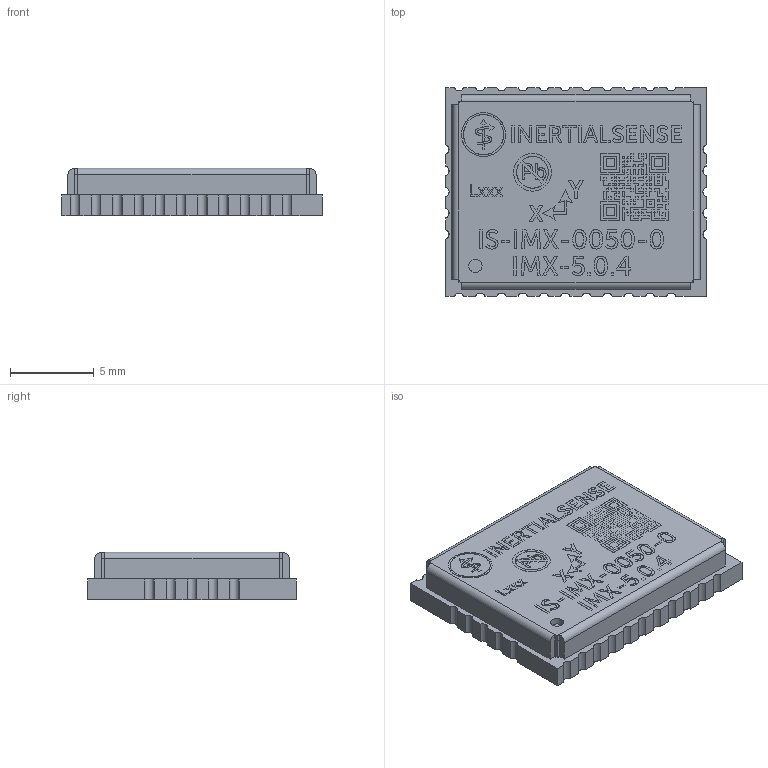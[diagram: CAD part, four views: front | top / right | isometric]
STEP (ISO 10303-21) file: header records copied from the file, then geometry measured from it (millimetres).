
FILE_DESCRIPTION(('Open CASCADE Model'),'2;1');
FILE_NAME('Open CASCADE Shape Model','2022-12-08T13:31:33',('Author'),( 'Open CASCADE'),'Open CASCADE STEP processor 7.5','Open CASCADE 7.5' ,'Unknown');
FILE_SCHEMA(('AUTOMOTIVE_DESIGN { 1 0 10303 214 1 1 1 1 }'));
Length unit declared in the file: millimetre
Products named in the file (99): PCB; Board; Open CASCADE STEP translator 7.5 2.1.1; SHLD1; Can v16; Shell; Component66; Component65; Component64; Component63; Component62; Component61; Component60; Component59; Component58; Component57; Component56; Component55; Component54; Component53; Component52; Component51; Component50; Component49; Component48; Component47; Component46; Component45; Component44; Component43; Component42; Component41; Component40; Component39; Component38; Component37; Component36; Component35; Component34; Component33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
Assembly tree (129 placements, depth 4):
  PCB
    Board
      Open CASCADE STEP translator 7.5 2.1.1
    SHLD1
      Can v16
        Shell
        Component66
        Component65
        Component64
        Component63
        Component62
        Component61
        Component60
        Component59
        Component58
        Component57
        Component56
        Component55
        Component54
        Component53
        Component52
        Component51
        Component50
        Component49
        Component48
        Component47
        Component46
        Component45
        Component44
        Component43
        Component42
        Component41
        Component40
        Component39
        Component38
        Component37
        Component36
        Component35
        Component34
        Component33
        Component32
        Component31
        Component30
        Component29
        Component28
        Component27
        Component26
        Component25
        Component24
        Component23
        Component22
        Component21
        Component20
        Component19
        Component18
        Component17
        Component16
        Component15
        Component14
        Component13
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Bounding box: 15.6 x 12.5 x 2.87 mm (x, y, z)
Volume: 331.9 mm3; surface area: 1076.7 mm2
Topology: 141 solids, 141 shells, 1839 faces, 4639 edges, 3062 vertices
Faces by surface type: plane 1691, bspline 107, cylinder 41
Full cylindrical faces by diameter (mm): 0.8 x1
Entity records: 47995 total; most frequent: CARTESIAN_POINT 10219, ORIENTED_EDGE 7442, DIRECTION 6589, EDGE_CURVE 3721, LINE 3421, VECTOR 3421, VERTEX_POINT 2450, AXIS2_PLACEMENT_3D 1584
